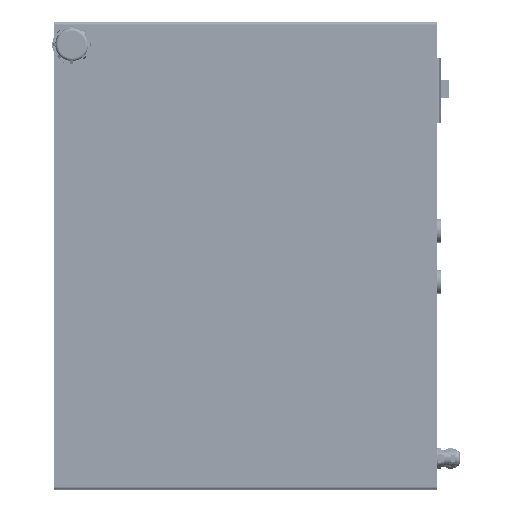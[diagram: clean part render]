
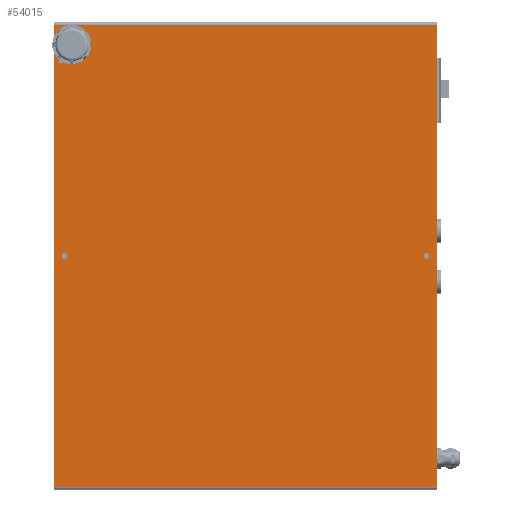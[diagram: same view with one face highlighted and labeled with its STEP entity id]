
A CAD part, top view. The second image highlights one B-rep face of the part: STEP entity #54015.
In plain terms, the highlighted planar face has unit normal (0, 0, 1) as drawn and (0, 1, 0) by its records, which use the part's own axes.
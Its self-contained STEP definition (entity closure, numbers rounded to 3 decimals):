
#770 = CARTESIAN_POINT ( 'NONE',  ( 0.5, 0., 213. ) ) ;
#1400 = LINE ( 'NONE', #64122, #124651 ) ;
#1752 = VECTOR ( 'NONE', #10621, 1000. ) ;
#2996 = DIRECTION ( 'NONE',  ( 0., 1., 0. ) ) ;
#4580 = AXIS2_PLACEMENT_3D ( 'NONE', #130904, #86765, #128988 ) ;
#4884 = CARTESIAN_POINT ( 'NONE',  ( 227., 0., -220. ) ) ;
#5992 = VERTEX_POINT ( 'NONE', #57253 ) ;
#6431 = CIRCLE ( 'NONE', #90854, 3. ) ;
#9785 = EDGE_CURVE ( 'NONE', #165072, #88013, #6431, .T. ) ;
#10368 = VERTEX_POINT ( 'NONE', #62007 ) ;
#10621 = DIRECTION ( 'NONE',  ( -1., 0., 0. ) ) ;
#12063 = VERTEX_POINT ( 'NONE', #67515 ) ;
#13568 = CARTESIAN_POINT ( 'NONE',  ( 267., 0., -220. ) ) ;
#13859 = DIRECTION ( 'NONE',  ( 0., 1., 0. ) ) ;
#14190 = VECTOR ( 'NONE', #181209, 1000. ) ;
#14520 = AXIS2_PLACEMENT_3D ( 'NONE', #175416, #99948, #141393 ) ;
#15966 = VERTEX_POINT ( 'NONE', #93042 ) ;
#21061 = VERTEX_POINT ( 'NONE', #80043 ) ;
#21504 = CARTESIAN_POINT ( 'NONE',  ( 227., 0., -220. ) ) ;
#22791 = CIRCLE ( 'NONE', #135455, 20. ) ;
#24747 = EDGE_LOOP ( 'NONE', ( #192939, #140833, #48746, #102482 ) ) ;
#27401 = EDGE_CURVE ( 'NONE', #10368, #135613, #37531, .T. ) ;
#29807 = VERTEX_POINT ( 'NONE', #107546 ) ;
#31825 = DIRECTION ( 'NONE',  ( -1., 0., 0. ) ) ;
#32302 = CARTESIAN_POINT ( 'NONE',  ( 267., 0., -203. ) ) ;
#32444 = CARTESIAN_POINT ( 'NONE',  ( -0.5, 0., 213. ) ) ;
#33344 = DIRECTION ( 'NONE',  ( 0., 0., 1. ) ) ;
#33427 = VECTOR ( 'NONE', #63589, 1000. ) ;
#35375 = LINE ( 'NONE', #182507, #62646 ) ;
#35426 = CARTESIAN_POINT ( 'NONE',  ( 272., 0., 225. ) ) ;
#36828 = CARTESIAN_POINT ( 'NONE',  ( -0.5, 0., -210. ) ) ;
#37369 = LINE ( 'NONE', #97195, #72636 ) ;
#37531 = LINE ( 'NONE', #157122, #56023 ) ;
#37802 = LINE ( 'NONE', #71082, #148828 ) ;
#38508 = DIRECTION ( 'NONE',  ( 1., 0., 0. ) ) ;
#41020 = VERTEX_POINT ( 'NONE', #179162 ) ;
#42780 = ORIENTED_EDGE ( 'NONE', *, *, #133640, .F. ) ;
#43188 = EDGE_CURVE ( 'NONE', #15966, #5992, #173809, .T. ) ;
#46751 = VERTEX_POINT ( 'NONE', #21504 ) ;
#48746 = ORIENTED_EDGE ( 'NONE', *, *, #9785, .F. ) ;
#48913 = CARTESIAN_POINT ( 'NONE',  ( 0.5, 0., -216. ) ) ;
#49577 = VERTEX_POINT ( 'NONE', #74394 ) ;
#52853 = LINE ( 'NONE', #172481, #1752 ) ;
#53626 = VERTEX_POINT ( 'NONE', #62430 ) ;
#53990 = EDGE_CURVE ( 'NONE', #41020, #46751, #183776, .T. ) ;
#54015 = ADVANCED_FACE ( 'NONE', ( #169041, #63191, #123001, #154310 ), #166137, .T. ) ;
#56023 = VECTOR ( 'NONE', #38508, 1000. ) ;
#56897 = DIRECTION ( 'NONE',  ( 0., 1., 0. ) ) ;
#57253 = CARTESIAN_POINT ( 'NONE',  ( -0.5, 0., 216. ) ) ;
#58613 = DIRECTION ( 'NONE',  ( 0., 0., -1. ) ) ;
#58661 = CARTESIAN_POINT ( 'NONE',  ( -0.5, 0., 216. ) ) ;
#62007 = CARTESIAN_POINT ( 'NONE',  ( -272., 0., 225. ) ) ;
#62430 = CARTESIAN_POINT ( 'NONE',  ( -0.5, 0., -216. ) ) ;
#62646 = VECTOR ( 'NONE', #136389, 1000. ) ;
#62839 = DIRECTION ( 'NONE',  ( 0., 0., 1. ) ) ;
#63191 = FACE_BOUND ( 'NONE', #96927, .T. ) ;
#63589 = DIRECTION ( 'NONE',  ( 0., 0., -1. ) ) ;
#64122 = CARTESIAN_POINT ( 'NONE',  ( -0.5, 0., 210. ) ) ;
#64138 = DIRECTION ( 'NONE',  ( 0., 0., 1. ) ) ;
#65092 = DIRECTION ( 'NONE',  ( 0., 1., 0. ) ) ;
#67515 = CARTESIAN_POINT ( 'NONE',  ( 227., 0., -203. ) ) ;
#69320 = ORIENTED_EDGE ( 'NONE', *, *, #27401, .T. ) ;
#69833 = CARTESIAN_POINT ( 'NONE',  ( 272., 0., -225. ) ) ;
#71082 = CARTESIAN_POINT ( 'NONE',  ( -0.5, 0., -210. ) ) ;
#72281 = VECTOR ( 'NONE', #31825, 1000. ) ;
#72636 = VECTOR ( 'NONE', #154050, 1000. ) ;
#73972 = EDGE_CURVE ( 'NONE', #53626, #143070, #158563, .T. ) ;
#74394 = CARTESIAN_POINT ( 'NONE',  ( -272., 0., -225. ) ) ;
#74942 = VERTEX_POINT ( 'NONE', #69833 ) ;
#75375 = LINE ( 'NONE', #151808, #33427 ) ;
#78467 = LINE ( 'NONE', #4884, #169713 ) ;
#80043 = CARTESIAN_POINT ( 'NONE',  ( 247., 0., -183. ) ) ;
#82905 = DIRECTION ( 'NONE',  ( 1., 0., 0. ) ) ;
#84377 = CARTESIAN_POINT ( 'NONE',  ( 247., 0., -203. ) ) ;
#86122 = EDGE_CURVE ( 'NONE', #5992, #165072, #115617, .T. ) ;
#86741 = AXIS2_PLACEMENT_3D ( 'NONE', #169702, #2996, #62839 ) ;
#86765 = DIRECTION ( 'NONE',  ( 0., 1., 0. ) ) ;
#87685 = CARTESIAN_POINT ( 'NONE',  ( 0.5, 0., 210. ) ) ;
#88013 = VERTEX_POINT ( 'NONE', #87685 ) ;
#88070 = DIRECTION ( 'NONE',  ( 0., 1., 0. ) ) ;
#89153 = CIRCLE ( 'NONE', #4580, 3. ) ;
#90023 = LINE ( 'NONE', #13568, #14190 ) ;
#90854 = AXIS2_PLACEMENT_3D ( 'NONE', #770, #88070, #58613 ) ;
#90949 = EDGE_CURVE ( 'NONE', #12063, #21061, #22791, .T. ) ;
#92481 = VERTEX_POINT ( 'NONE', #32302 ) ;
#93042 = CARTESIAN_POINT ( 'NONE',  ( -0.5, 0., 210. ) ) ;
#96927 = EDGE_LOOP ( 'NONE', ( #150881, #101278, #148025, #42780 ) ) ;
#97195 = CARTESIAN_POINT ( 'NONE',  ( -275., 0., -225. ) ) ;
#99948 = DIRECTION ( 'NONE',  ( 0., 1., 0. ) ) ;
#101278 = ORIENTED_EDGE ( 'NONE', *, *, #115859, .F. ) ;
#101661 = EDGE_CURVE ( 'NONE', #46751, #12063, #78467, .T. ) ;
#102482 = ORIENTED_EDGE ( 'NONE', *, *, #86122, .F. ) ;
#104115 = DIRECTION ( 'NONE',  ( 0., 0., -1. ) ) ;
#106356 = CARTESIAN_POINT ( 'NONE',  ( 227., 0., -220. ) ) ;
#107546 = CARTESIAN_POINT ( 'NONE',  ( 0.5, 0., -210. ) ) ;
#112702 = VECTOR ( 'NONE', #145023, 1000. ) ;
#112999 = ORIENTED_EDGE ( 'NONE', *, *, #133309, .T. ) ;
#115617 = LINE ( 'NONE', #58661, #112702 ) ;
#115859 = EDGE_CURVE ( 'NONE', #171184, #53626, #52853, .T. ) ;
#117106 = EDGE_CURVE ( 'NONE', #92481, #41020, #90023, .T. ) ;
#117512 = ORIENTED_EDGE ( 'NONE', *, *, #53990, .F. ) ;
#119954 = EDGE_LOOP ( 'NONE', ( #136119, #117512, #183714, #166294, #128492 ) ) ;
#123001 = FACE_BOUND ( 'NONE', #119954, .T. ) ;
#124651 = VECTOR ( 'NONE', #182794, 1000. ) ;
#128152 = EDGE_CURVE ( 'NONE', #21061, #92481, #155574, .T. ) ;
#128492 = ORIENTED_EDGE ( 'NONE', *, *, #90949, .F. ) ;
#128988 = DIRECTION ( 'NONE',  ( 0., 0., 1. ) ) ;
#129994 = EDGE_CURVE ( 'NONE', #88013, #15966, #1400, .T. ) ;
#130904 = CARTESIAN_POINT ( 'NONE',  ( 0.5, 0., -213. ) ) ;
#133309 = EDGE_CURVE ( 'NONE', #49577, #10368, #35375, .T. ) ;
#133640 = EDGE_CURVE ( 'NONE', #143070, #29807, #37802, .T. ) ;
#135455 = AXIS2_PLACEMENT_3D ( 'NONE', #84377, #56897, #148017 ) ;
#135613 = VERTEX_POINT ( 'NONE', #35426 ) ;
#136119 = ORIENTED_EDGE ( 'NONE', *, *, #101661, .F. ) ;
#136261 = AXIS2_PLACEMENT_3D ( 'NONE', #32444, #13859, #104115 ) ;
#136389 = DIRECTION ( 'NONE',  ( 0., 0., 1. ) ) ;
#138667 = CARTESIAN_POINT ( 'NONE',  ( 0., 0., 0. ) ) ;
#140833 = ORIENTED_EDGE ( 'NONE', *, *, #129994, .F. ) ;
#141393 = DIRECTION ( 'NONE',  ( 0., 0., 1. ) ) ;
#143070 = VERTEX_POINT ( 'NONE', #36828 ) ;
#145023 = DIRECTION ( 'NONE',  ( 1., 0., 0. ) ) ;
#148017 = DIRECTION ( 'NONE',  ( 0., 0., 1. ) ) ;
#148025 = ORIENTED_EDGE ( 'NONE', *, *, #160510, .F. ) ;
#148828 = VECTOR ( 'NONE', #82905, 1000. ) ;
#149606 = CARTESIAN_POINT ( 'NONE',  ( 0.5, 0., 216. ) ) ;
#150881 = ORIENTED_EDGE ( 'NONE', *, *, #73972, .F. ) ;
#151808 = CARTESIAN_POINT ( 'NONE',  ( 272., 0., 225. ) ) ;
#153416 = EDGE_CURVE ( 'NONE', #135613, #74942, #75375, .T. ) ;
#154050 = DIRECTION ( 'NONE',  ( -1., 0., 0. ) ) ;
#154106 = ORIENTED_EDGE ( 'NONE', *, *, #176122, .T. ) ;
#154310 = FACE_OUTER_BOUND ( 'NONE', #193819, .T. ) ;
#155574 = CIRCLE ( 'NONE', #86741, 20. ) ;
#157122 = CARTESIAN_POINT ( 'NONE',  ( -275., 0., 225. ) ) ;
#158563 = CIRCLE ( 'NONE', #14520, 3. ) ;
#160510 = EDGE_CURVE ( 'NONE', #29807, #171184, #89153, .T. ) ;
#165072 = VERTEX_POINT ( 'NONE', #149606 ) ;
#166137 = PLANE ( 'NONE',  #191424 ) ;
#166294 = ORIENTED_EDGE ( 'NONE', *, *, #128152, .F. ) ;
#169041 = FACE_BOUND ( 'NONE', #24747, .T. ) ;
#169702 = CARTESIAN_POINT ( 'NONE',  ( 247., 0., -203. ) ) ;
#169713 = VECTOR ( 'NONE', #33344, 1000. ) ;
#171184 = VERTEX_POINT ( 'NONE', #48913 ) ;
#172481 = CARTESIAN_POINT ( 'NONE',  ( -0.5, 0., -216. ) ) ;
#173809 = CIRCLE ( 'NONE', #136261, 3. ) ;
#175416 = CARTESIAN_POINT ( 'NONE',  ( -0.5, 0., -213. ) ) ;
#176122 = EDGE_CURVE ( 'NONE', #74942, #49577, #37369, .T. ) ;
#179162 = CARTESIAN_POINT ( 'NONE',  ( 267., 0., -220. ) ) ;
#179418 = ORIENTED_EDGE ( 'NONE', *, *, #153416, .T. ) ;
#181209 = DIRECTION ( 'NONE',  ( 0., 0., -1. ) ) ;
#182507 = CARTESIAN_POINT ( 'NONE',  ( -272., 0., -225. ) ) ;
#182794 = DIRECTION ( 'NONE',  ( -1., 0., 0. ) ) ;
#183714 = ORIENTED_EDGE ( 'NONE', *, *, #117106, .F. ) ;
#183776 = LINE ( 'NONE', #106356, #72281 ) ;
#191424 = AXIS2_PLACEMENT_3D ( 'NONE', #138667, #65092, #64138 ) ;
#192939 = ORIENTED_EDGE ( 'NONE', *, *, #43188, .F. ) ;
#193819 = EDGE_LOOP ( 'NONE', ( #154106, #112999, #69320, #179418 ) ) ;
